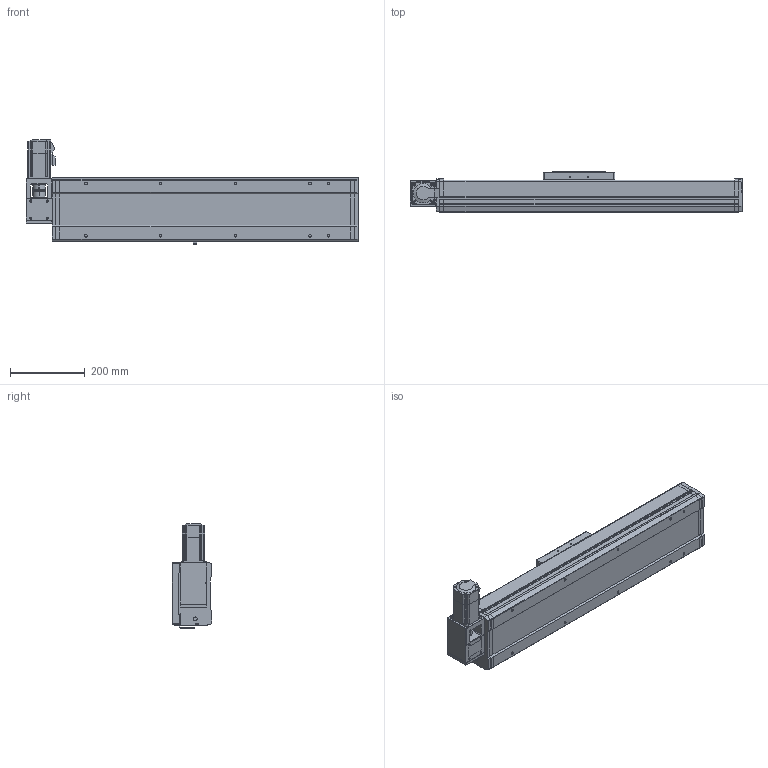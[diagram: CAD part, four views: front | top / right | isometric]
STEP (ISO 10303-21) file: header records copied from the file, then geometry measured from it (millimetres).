
FILE_DESCRIPTION((''),'2;1');
FILE_NAME('170-TZJ3FL-S500_ASM','2015-12-04T',('lenovo'),(''),'PRO/ENGINEER BY PARAMETRIC TECHNOLOGY CORPORATION, 2010280','PRO/ENGINEER BY PARAMETRIC TECHNOLOGY CORPORATION, 2010280','');
FILE_SCHEMA(('CONFIG_CONTROL_DESIGN'));
Length unit declared in the file: millimetre
Products named in the file (5): 170-TJFL-DZ; 170-HK; 170-HDB-01; 170-TZJ3FL-DJZ; 170-TZJ3FL-S500_ASM
Assembly tree (4 placements, depth 2):
  170-TZJ3FL-S500_ASM
    170-TJFL-DZ
    170-HK
    170-HDB-01
    170-TZJ3FL-DJZ
Bounding box: 889 x 107 x 278.5 mm (x, y, z)
Volume: 7019313.9 mm3; surface area: 1104439.3 mm2
Topology: 6 solids, 30 shells, 1474 faces, 4009 edges, 2673 vertices
Faces by surface type: plane 790, cylinder 543, cone 113, torus 28
Entity records: 47259 total; most frequent: CARTESIAN_POINT 8439, DIRECTION 8292, ORIENTED_EDGE 8018, EDGE_CURVE 4009, AXIS2_PLACEMENT_3D 2842, VERTEX_POINT 2673, VECTOR 2608, LINE 2608
